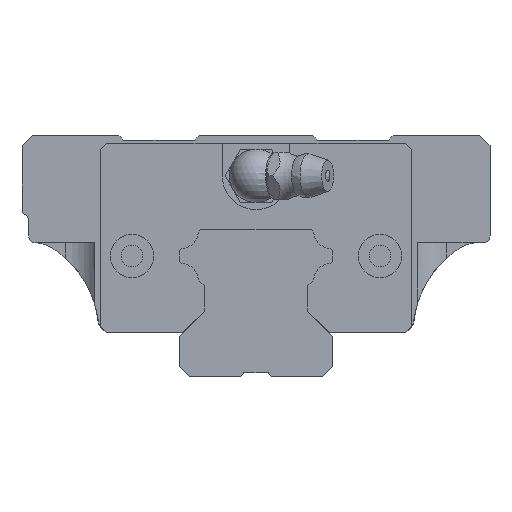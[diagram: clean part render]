
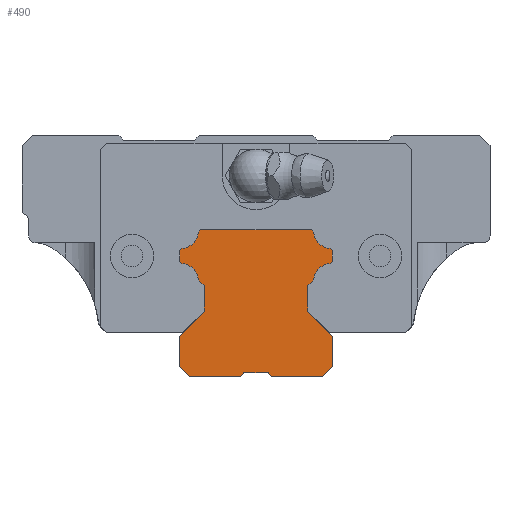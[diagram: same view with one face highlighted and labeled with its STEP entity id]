
A CAD part, front view. The second image highlights one B-rep face of the part: STEP entity #490.
In plain terms, the highlighted planar face has unit normal (0, -1, 0).
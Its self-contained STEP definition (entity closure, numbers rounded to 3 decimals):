
#320=CIRCLE('',#3994,2.65);
#322=CIRCLE('',#4000,2.65);
#328=CIRCLE('',#4010,2.65);
#330=CIRCLE('',#4016,2.65);
#490=ADVANCED_FACE('',(#843),#680,.T.);
#680=PLANE('',#4028);
#843=FACE_OUTER_BOUND('',#1051,.T.);
#1051=EDGE_LOOP('',(#1582,#1583,#1584,#1585,#1586,#1587,#1588,#1589,#1590,
#1591,#1592,#1593,#1594,#1595,#1596,#1597,#1598,#1599,#1600,#1601,#1602,
#1603,#1604,#1605,#1606,#1607,#1608,#1609));
#1582=ORIENTED_EDGE('',*,*,#2777,.F.);
#1583=ORIENTED_EDGE('',*,*,#2857,.F.);
#1584=ORIENTED_EDGE('',*,*,#2773,.F.);
#1585=ORIENTED_EDGE('',*,*,#2854,.F.);
#1586=ORIENTED_EDGE('',*,*,#2852,.F.);
#1587=ORIENTED_EDGE('',*,*,#2850,.F.);
#1588=ORIENTED_EDGE('',*,*,#2847,.F.);
#1589=ORIENTED_EDGE('',*,*,#2844,.F.);
#1590=ORIENTED_EDGE('',*,*,#2841,.F.);
#1591=ORIENTED_EDGE('',*,*,#2838,.F.);
#1592=ORIENTED_EDGE('',*,*,#2835,.F.);
#1593=ORIENTED_EDGE('',*,*,#2832,.F.);
#1594=ORIENTED_EDGE('',*,*,#2829,.F.);
#1595=ORIENTED_EDGE('',*,*,#2826,.F.);
#1596=ORIENTED_EDGE('',*,*,#2823,.F.);
#1597=ORIENTED_EDGE('',*,*,#2820,.F.);
#1598=ORIENTED_EDGE('',*,*,#2817,.F.);
#1599=ORIENTED_EDGE('',*,*,#2814,.F.);
#1600=ORIENTED_EDGE('',*,*,#2807,.F.);
#1601=ORIENTED_EDGE('',*,*,#2804,.F.);
#1602=ORIENTED_EDGE('',*,*,#2801,.F.);
#1603=ORIENTED_EDGE('',*,*,#2798,.F.);
#1604=ORIENTED_EDGE('',*,*,#2795,.F.);
#1605=ORIENTED_EDGE('',*,*,#2792,.F.);
#1606=ORIENTED_EDGE('',*,*,#2789,.F.);
#1607=ORIENTED_EDGE('',*,*,#2786,.F.);
#1608=ORIENTED_EDGE('',*,*,#2783,.F.);
#1609=ORIENTED_EDGE('',*,*,#2780,.F.);
#2371=VERTEX_POINT('',#5748);
#2372=VERTEX_POINT('',#5750);
#2375=VERTEX_POINT('',#5757);
#2376=VERTEX_POINT('',#5759);
#2378=VERTEX_POINT('',#5765);
#2380=VERTEX_POINT('',#5771);
#2382=VERTEX_POINT('',#5777);
#2384=VERTEX_POINT('',#5783);
#2386=VERTEX_POINT('',#5789);
#2388=VERTEX_POINT('',#5795);
#2390=VERTEX_POINT('',#5801);
#2392=VERTEX_POINT('',#5807);
#2394=VERTEX_POINT('',#5813);
#2396=VERTEX_POINT('',#5819);
#2402=VERTEX_POINT('',#5833);
#2404=VERTEX_POINT('',#5839);
#2406=VERTEX_POINT('',#5845);
#2408=VERTEX_POINT('',#5851);
#2410=VERTEX_POINT('',#5857);
#2412=VERTEX_POINT('',#5863);
#2414=VERTEX_POINT('',#5869);
#2416=VERTEX_POINT('',#5875);
#2418=VERTEX_POINT('',#5881);
#2420=VERTEX_POINT('',#5887);
#2422=VERTEX_POINT('',#5893);
#2424=VERTEX_POINT('',#5899);
#2425=VERTEX_POINT('',#5904);
#2426=VERTEX_POINT('',#5908);
#2773=EDGE_CURVE('',#2371,#2372,#3232,.T.);
#2777=EDGE_CURVE('',#2375,#2376,#3236,.T.);
#2780=EDGE_CURVE('',#2376,#2378,#3239,.T.);
#2783=EDGE_CURVE('',#2378,#2380,#3242,.T.);
#2786=EDGE_CURVE('',#2380,#2382,#3245,.T.);
#2789=EDGE_CURVE('',#2382,#2384,#3248,.T.);
#2792=EDGE_CURVE('',#2384,#2386,#320,.T.);
#2795=EDGE_CURVE('',#2386,#2388,#3252,.T.);
#2798=EDGE_CURVE('',#2388,#2390,#3255,.T.);
#2801=EDGE_CURVE('',#2390,#2392,#3258,.T.);
#2804=EDGE_CURVE('',#2392,#2394,#322,.T.);
#2807=EDGE_CURVE('',#2394,#2396,#3262,.T.);
#2814=EDGE_CURVE('',#2396,#2402,#3265,.T.);
#2817=EDGE_CURVE('',#2402,#2404,#3268,.T.);
#2820=EDGE_CURVE('',#2404,#2406,#328,.T.);
#2823=EDGE_CURVE('',#2406,#2408,#3272,.T.);
#2826=EDGE_CURVE('',#2408,#2410,#3275,.T.);
#2829=EDGE_CURVE('',#2410,#2412,#3278,.T.);
#2832=EDGE_CURVE('',#2412,#2414,#330,.T.);
#2835=EDGE_CURVE('',#2414,#2416,#3282,.T.);
#2838=EDGE_CURVE('',#2416,#2418,#3285,.T.);
#2841=EDGE_CURVE('',#2418,#2420,#3288,.T.);
#2844=EDGE_CURVE('',#2420,#2422,#3291,.T.);
#2847=EDGE_CURVE('',#2422,#2424,#3294,.T.);
#2850=EDGE_CURVE('',#2424,#2425,#3297,.T.);
#2852=EDGE_CURVE('',#2425,#2426,#3299,.T.);
#2854=EDGE_CURVE('',#2426,#2371,#3301,.T.);
#2857=EDGE_CURVE('',#2372,#2375,#3304,.T.);
#3232=LINE('',#5749,#3585);
#3236=LINE('',#5758,#3589);
#3239=LINE('',#5764,#3592);
#3242=LINE('',#5770,#3595);
#3245=LINE('',#5776,#3598);
#3248=LINE('',#5782,#3601);
#3252=LINE('',#5794,#3605);
#3255=LINE('',#5800,#3608);
#3258=LINE('',#5806,#3611);
#3262=LINE('',#5818,#3615);
#3265=LINE('',#5832,#3618);
#3268=LINE('',#5838,#3621);
#3272=LINE('',#5850,#3625);
#3275=LINE('',#5856,#3628);
#3278=LINE('',#5862,#3631);
#3282=LINE('',#5874,#3635);
#3285=LINE('',#5880,#3638);
#3288=LINE('',#5886,#3641);
#3291=LINE('',#5892,#3644);
#3294=LINE('',#5898,#3647);
#3297=LINE('',#5903,#3650);
#3299=LINE('',#5907,#3652);
#3301=LINE('',#5911,#3654);
#3304=LINE('',#5917,#3657);
#3585=VECTOR('',#4503,1.);
#3589=VECTOR('',#4509,1.);
#3592=VECTOR('',#4514,1.);
#3595=VECTOR('',#4519,1.);
#3598=VECTOR('',#4524,1.);
#3601=VECTOR('',#4529,1.);
#3605=VECTOR('',#4541,1.);
#3608=VECTOR('',#4546,1.);
#3611=VECTOR('',#4551,1.);
#3615=VECTOR('',#4563,1.);
#3618=VECTOR('',#4576,1.);
#3621=VECTOR('',#4581,1.);
#3625=VECTOR('',#4593,1.);
#3628=VECTOR('',#4598,1.);
#3631=VECTOR('',#4603,1.);
#3635=VECTOR('',#4615,1.);
#3638=VECTOR('',#4620,1.);
#3641=VECTOR('',#4625,1.);
#3644=VECTOR('',#4630,1.);
#3647=VECTOR('',#4635,1.);
#3650=VECTOR('',#4640,1.);
#3652=VECTOR('',#4644,1.);
#3654=VECTOR('',#4648,1.);
#3657=VECTOR('',#4655,1.);
#3994=AXIS2_PLACEMENT_3D('',#5788,#4535,#4536);
#4000=AXIS2_PLACEMENT_3D('',#5812,#4557,#4558);
#4010=AXIS2_PLACEMENT_3D('',#5844,#4587,#4588);
#4016=AXIS2_PLACEMENT_3D('',#5868,#4609,#4610);
#4028=AXIS2_PLACEMENT_3D('',#5920,#4659,#4660);
#4503=DIRECTION('',(-0.707,0.,-0.707));
#4509=DIRECTION('',(-0.707,0.,0.707));
#4514=DIRECTION('',(0.,0.,1.));
#4519=DIRECTION('',(0.707,0.,0.707));
#4524=DIRECTION('',(0.,0.,1.));
#4529=DIRECTION('',(-0.707,0.,0.707));
#4535=DIRECTION('',(0.,-1.,0.));
#4536=DIRECTION('',(1.,0.,0.));
#4541=DIRECTION('',(-0.707,0.,0.707));
#4546=DIRECTION('',(0.,0.,1.));
#4551=DIRECTION('',(0.707,0.,0.707));
#4557=DIRECTION('',(0.,-1.,0.));
#4558=DIRECTION('',(1.,0.,0.));
#4563=DIRECTION('',(0.707,0.,0.707));
#4576=DIRECTION('',(1.,0.,0.));
#4581=DIRECTION('',(0.707,0.,-0.707));
#4587=DIRECTION('',(0.,-1.,0.));
#4588=DIRECTION('',(1.,0.,0.));
#4593=DIRECTION('',(0.707,0.,-0.707));
#4598=DIRECTION('',(0.,0.,-1.));
#4603=DIRECTION('',(-0.707,0.,-0.707));
#4609=DIRECTION('',(0.,-1.,0.));
#4610=DIRECTION('',(1.,0.,0.));
#4615=DIRECTION('',(-0.707,0.,-0.707));
#4620=DIRECTION('',(0.,0.,-1.));
#4625=DIRECTION('',(0.707,0.,-0.707));
#4630=DIRECTION('',(0.,0.,-1.));
#4635=DIRECTION('',(-0.707,0.,-0.707));
#4640=DIRECTION('',(-1.,0.,0.));
#4644=DIRECTION('',(-0.707,0.,0.707));
#4648=DIRECTION('',(-1.,0.,0.));
#4655=DIRECTION('',(-1.,0.,0.));
#4659=DIRECTION('',(0.,-1.,0.));
#4660=DIRECTION('',(0.,0.,-1.));
#5748=CARTESIAN_POINT('',(-1.8,-110.,0.5));
#5749=CARTESIAN_POINT('',(-1.8,-110.,0.5));
#5750=CARTESIAN_POINT('',(-2.3,-110.,0.));
#5757=CARTESIAN_POINT('',(-10.,-110.,0.));
#5758=CARTESIAN_POINT('',(-10.,-110.,0.));
#5759=CARTESIAN_POINT('',(-11.5,-110.,1.5));
#5764=CARTESIAN_POINT('',(-11.5,-110.,1.5));
#5765=CARTESIAN_POINT('',(-11.5,-110.,6.001));
#5770=CARTESIAN_POINT('',(-11.5,-110.,6.001));
#5771=CARTESIAN_POINT('',(-7.73,-110.,9.771));
#5776=CARTESIAN_POINT('',(-7.73,-110.,9.771));
#5777=CARTESIAN_POINT('',(-7.73,-110.,13.529));
#5782=CARTESIAN_POINT('',(-7.73,-110.,13.529));
#5783=CARTESIAN_POINT('',(-8.627,-110.,14.426));
#5788=CARTESIAN_POINT('',(-11.27,-110.,14.23));
#5789=CARTESIAN_POINT('',(-11.074,-110.,16.873));
#5794=CARTESIAN_POINT('',(-11.074,-110.,16.873));
#5795=CARTESIAN_POINT('',(-11.43,-110.,17.229));
#5800=CARTESIAN_POINT('',(-11.43,-110.,17.229));
#5801=CARTESIAN_POINT('',(-11.43,-110.,18.771));
#5806=CARTESIAN_POINT('',(-11.43,-110.,18.771));
#5807=CARTESIAN_POINT('',(-11.074,-110.,19.127));
#5812=CARTESIAN_POINT('',(-11.27,-110.,21.77));
#5813=CARTESIAN_POINT('',(-8.627,-110.,21.574));
#5818=CARTESIAN_POINT('',(-8.627,-110.,21.574));
#5819=CARTESIAN_POINT('',(-8.271,-110.,21.93));
#5832=CARTESIAN_POINT('',(-8.271,-110.,21.93));
#5833=CARTESIAN_POINT('',(8.271,-110.,21.93));
#5838=CARTESIAN_POINT('',(8.271,-110.,21.93));
#5839=CARTESIAN_POINT('',(8.627,-110.,21.574));
#5844=CARTESIAN_POINT('',(11.27,-110.,21.77));
#5845=CARTESIAN_POINT('',(11.074,-110.,19.127));
#5850=CARTESIAN_POINT('',(11.074,-110.,19.127));
#5851=CARTESIAN_POINT('',(11.43,-110.,18.771));
#5856=CARTESIAN_POINT('',(11.43,-110.,18.771));
#5857=CARTESIAN_POINT('',(11.43,-110.,17.229));
#5862=CARTESIAN_POINT('',(11.43,-110.,17.229));
#5863=CARTESIAN_POINT('',(11.074,-110.,16.873));
#5868=CARTESIAN_POINT('',(11.27,-110.,14.23));
#5869=CARTESIAN_POINT('',(8.627,-110.,14.426));
#5874=CARTESIAN_POINT('',(8.627,-110.,14.426));
#5875=CARTESIAN_POINT('',(7.73,-110.,13.529));
#5880=CARTESIAN_POINT('',(7.73,-110.,13.529));
#5881=CARTESIAN_POINT('',(7.73,-110.,9.771));
#5886=CARTESIAN_POINT('',(7.73,-110.,9.771));
#5887=CARTESIAN_POINT('',(11.5,-110.,6.001));
#5892=CARTESIAN_POINT('',(11.5,-110.,6.001));
#5893=CARTESIAN_POINT('',(11.5,-110.,1.5));
#5898=CARTESIAN_POINT('',(11.5,-110.,1.5));
#5899=CARTESIAN_POINT('',(10.,-110.,0.));
#5903=CARTESIAN_POINT('',(10.,-110.,0.));
#5904=CARTESIAN_POINT('',(2.3,-110.,0.));
#5907=CARTESIAN_POINT('',(2.3,-110.,0.));
#5908=CARTESIAN_POINT('',(1.8,-110.,0.5));
#5911=CARTESIAN_POINT('',(1.8,-110.,0.5));
#5917=CARTESIAN_POINT('',(-2.3,-110.,0.));
#5920=CARTESIAN_POINT('',(-11.27,-110.,14.23));
